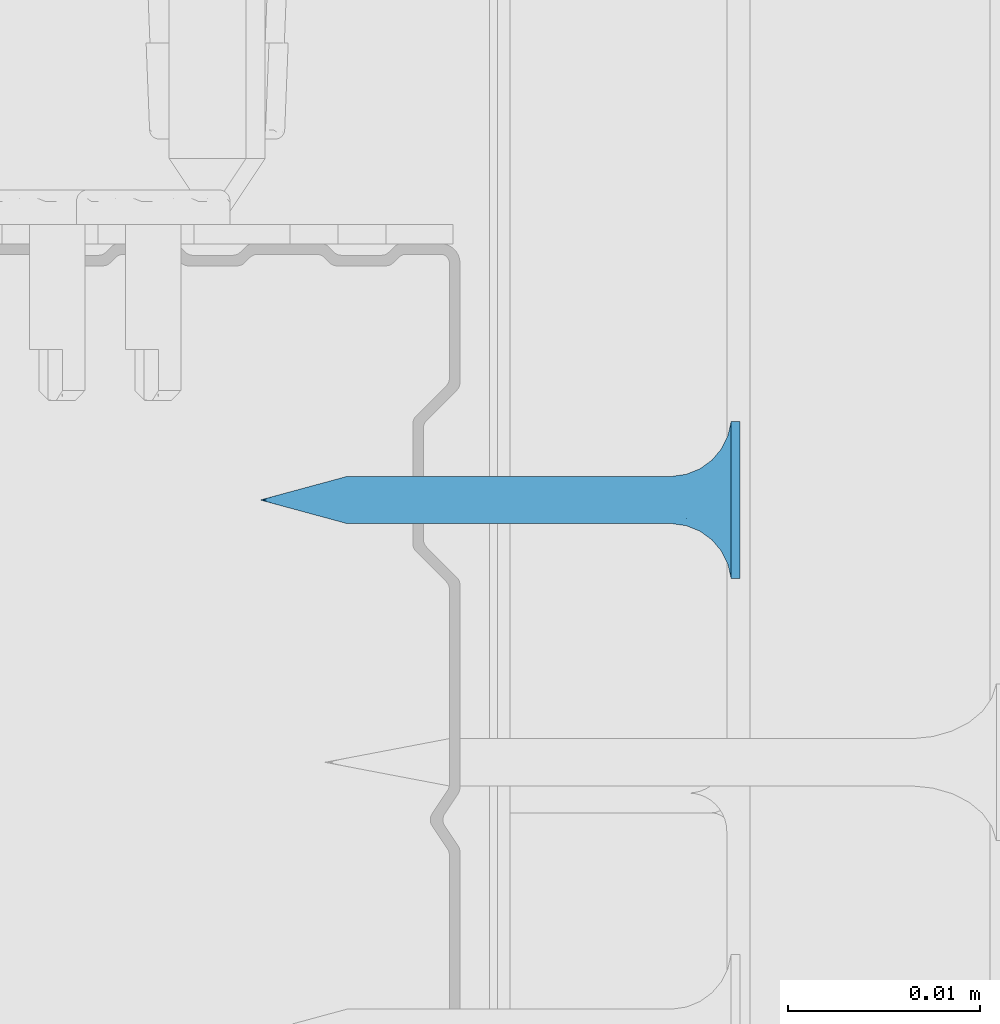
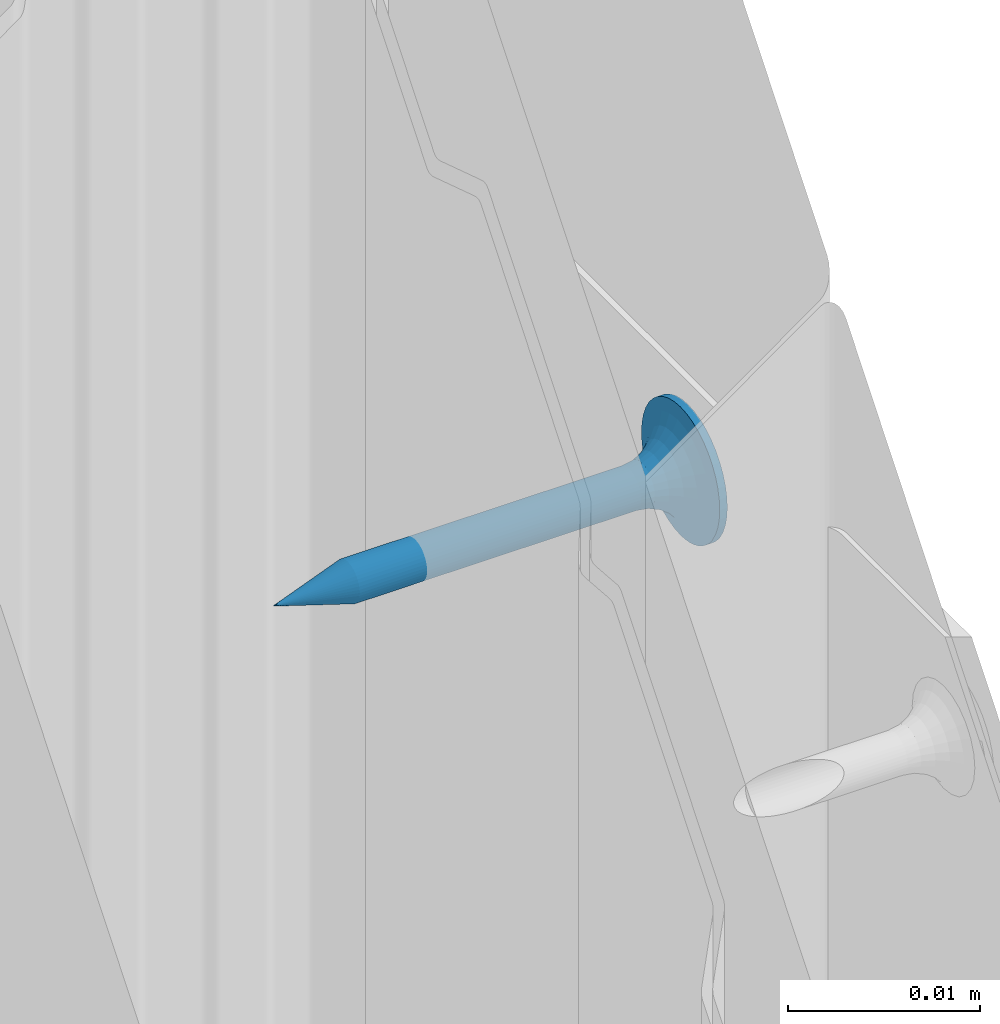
# One storey, part 38 of 62: 1 wall.
"""IFC2X3 building model written with IfcOpenShell, lengths in millimetres."""

from ifc_helpers import new_model, si_unit, frame, origin_with_axes, place, context, subcontext, project, spatial, faceted_brep, material, type_object, element, save


model = new_model("IFC2X3")

# Units and contexts
model_context = context("Model", 3, world=origin_with_axes())
body_context = subcontext(model_context, "Body", "Model", "MODEL_VIEW")
ifc_project = project(units=[si_unit("LENGTHUNIT", "METRE", prefix="MILLI"), si_unit("AREAUNIT", "SQUARE_METRE"), si_unit("VOLUMEUNIT", "CUBIC_METRE")], contexts=[model_context])

# Site, building, storey
site_placement = place(None, frame((2152.14102611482, -2015.0250894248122, 57.61556563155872), z_axis=(0.0, 0.0, 1.0), x_axis=(-1.1102230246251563e-16, 1.0, 0.0)))
site = spatial("IfcSite", under=ifc_project, at=site_placement, Name="Default Site", CompositionType="ELEMENT")
building_placement = place(site_placement, origin_with_axes())
building = spatial("IfcBuilding", under=site, at=building_placement, Name="Default Building", CompositionType="ELEMENT")
storey_placement = place(building_placement, origin_with_axes())
storey = spatial("IfcBuildingStorey", under=building, at=storey_placement, Name="Default Building Storey", CompositionType="ELEMENT", Elevation=57.61556563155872)

# Wall
ifc_material = material(Name="Default")
wall_type = type_object("IfcWallType", Name="Wkręt RIGIPS TN 25#17", PredefinedType="NOTDEFINED")
wall_placement = place(storey_placement, frame((2392.151464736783, 5320.213057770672, 300.1214699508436), z_axis=(0.0, 0.0, 1.0), x_axis=(1.0, 0.0, 0.0)))
element("IfcWall", 1, at=wall_placement, inside=storey, type_object=wall_type, material=ifc_material, Name="Wkręt RIGIPS TN 25", context=body_context, shape_type="Brep", body=[
    faceted_brep([(-141.48753293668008, -3390.5567221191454, 555.1619773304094), (-141.48753293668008, -3391.0209445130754, 555.1619773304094), (-141.53774659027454, -3391.0209445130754, 555.8000000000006), (-141.53774659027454, -3390.5567221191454, 555.8000000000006), (-141.3381290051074, -3390.5567221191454, 554.539664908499), (-141.3381290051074, -3391.0209445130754, 554.539664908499), (-141.09321328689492, -3390.5567221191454, 553.9483861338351), (-141.09321328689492, -3391.0209445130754, 553.9483861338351), (-140.75881656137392, -3390.5567221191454, 553.4027002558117), (-140.75881656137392, -3391.0209445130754, 553.4027002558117), (-140.3431726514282, -3391.0209445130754, 552.9160436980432), (-140.454172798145, -3390.5567221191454, 553.031490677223), (-139.85651609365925, -3391.0209445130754, 552.5003997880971), (-140.10800974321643, -3390.5567221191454, 552.6986613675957), (-139.72512626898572, -3390.5567221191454, 552.408826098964), (-139.31083021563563, -3391.0209445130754, 552.1660030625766), (-139.31083021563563, -3390.5567221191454, 552.1660030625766), (-138.719551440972, -3391.0209445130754, 551.9210873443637), (-138.87086516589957, -3390.5567221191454, 551.973558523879), (-138.4113302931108, -3390.5567221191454, 551.8341602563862), (-138.09723901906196, -3391.0209445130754, 551.7716834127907), (-137.93859616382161, -3390.5567221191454, 551.7497405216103), (-137.4592163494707, -3391.0209445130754, 551.7214697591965), (-137.4592163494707, -3390.5567221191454, 551.7214697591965), (-136.82119367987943, -3390.5567221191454, 551.7716834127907), (-136.82119367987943, -3391.0209445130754, 551.7716834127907), (-136.1988812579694, -3390.5567221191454, 551.9210873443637), (-136.1988812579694, -3391.0209445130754, 551.9210873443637), (-135.60760248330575, -3390.5567221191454, 552.1660030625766), (-135.60760248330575, -3391.0209445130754, 552.1660030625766), (-135.06191660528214, -3390.5567221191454, 552.5003997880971), (-135.06191660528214, -3391.0209445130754, 552.5003997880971), (-134.57526004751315, -3390.5567221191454, 552.9160436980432), (-134.57526004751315, -3391.0209445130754, 552.9160436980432), (-134.15961613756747, -3390.5567221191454, 553.4027002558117), (-134.15961613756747, -3391.0209445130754, 553.4027002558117), (-133.82521941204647, -3390.5567221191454, 553.9483861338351), (-133.82521941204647, -3391.0209445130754, 553.9483861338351), (-133.580303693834, -3390.5567221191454, 554.539664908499), (-133.580303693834, -3391.0209445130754, 554.539664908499), (-133.38068610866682, -3391.0209445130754, 555.8000000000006), (-133.38068610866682, -3390.5567221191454, 555.8000000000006), (-133.4308997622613, -3390.5567221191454, 556.4380226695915), (-133.4308997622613, -3391.0209445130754, 556.4380226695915), (-133.4308997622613, -3391.0209445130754, 555.1619773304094), (-133.4308997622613, -3390.5567221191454, 555.1619773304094), (-133.580303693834, -3390.5567221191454, 557.060335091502), (-133.580303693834, -3391.0209445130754, 557.060335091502), (-133.82521941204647, -3390.5567221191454, 557.6516138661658), (-133.82521941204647, -3391.0209445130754, 557.6516138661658), (-134.15961613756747, -3390.5567221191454, 558.1972997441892), (-134.15961613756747, -3391.0209445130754, 558.1972997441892), (-134.57526004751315, -3390.5567221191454, 558.6839563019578), (-134.57526004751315, -3391.0209445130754, 558.6839563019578), (-135.06191660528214, -3390.5567221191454, 559.0996002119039), (-135.06191660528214, -3391.0209445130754, 559.0996002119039), (-135.60760248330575, -3390.5567221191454, 559.4339969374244), (-135.60760248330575, -3391.0209445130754, 559.4339969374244), (-136.1988812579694, -3390.5567221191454, 559.6789126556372), (-136.1988812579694, -3391.0209445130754, 559.6789126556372), (-136.82119367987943, -3390.5567221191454, 559.8283165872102), (-136.82119367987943, -3391.0209445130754, 559.8283165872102), (-137.4592163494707, -3390.5567221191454, 559.8785302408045), (-137.4592163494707, -3391.0209445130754, 559.8785302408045), (-138.09723901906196, -3390.5567221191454, 559.8283165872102), (-138.09723901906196, -3391.0209445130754, 559.8283165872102), (-138.719551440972, -3390.5567221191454, 559.6789126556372), (-138.719551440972, -3391.0209445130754, 559.6789126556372), (-139.31083021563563, -3390.5567221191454, 559.4339969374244), (-139.31083021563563, -3391.0209445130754, 559.4339969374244), (-139.85651609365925, -3390.5567221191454, 559.0996002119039), (-139.85651609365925, -3391.0209445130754, 559.0996002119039), (-140.3431726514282, -3390.5567221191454, 558.6839563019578), (-140.3431726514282, -3391.0209445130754, 558.6839563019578), (-140.75881656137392, -3390.5567221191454, 558.1972997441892), (-140.75881656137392, -3391.0209445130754, 558.1972997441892), (-141.09321328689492, -3390.5567221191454, 557.6516138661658), (-141.09321328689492, -3391.0209445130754, 557.6516138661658), (-141.3381290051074, -3390.5567221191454, 557.060335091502), (-141.3381290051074, -3391.0209445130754, 557.060335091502), (-141.48753293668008, -3390.5567221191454, 556.4380226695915), (-141.48753293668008, -3391.0209445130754, 556.4380226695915), (-137.6517277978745, -3387.475459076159, 554.5845305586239), (-137.4592163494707, -3387.475459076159, 554.5693795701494), (-137.80606153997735, -3388.2297325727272, 554.5055561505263), (-137.4592163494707, -3388.2297325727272, 554.4598930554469), (-137.83949898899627, -3387.475459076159, 554.6296104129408), (-138.12926982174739, -3388.2297325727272, 554.639433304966), (-138.01790634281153, -3387.475459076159, 554.7035091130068), (-138.18255689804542, -3387.475459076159, 554.8044072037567), (-138.40681506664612, -3388.2297325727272, 554.8524012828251), (-138.32939643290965, -3387.475459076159, 554.9298199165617), (-138.45480914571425, -3387.475459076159, 555.0766594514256), (-138.61978304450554, -3388.2297325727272, 555.1299465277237), (-138.55570723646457, -3387.475459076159, 555.24131000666), (-138.75366019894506, -3388.2297325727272, 555.453154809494), (-138.62960593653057, -3387.475459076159, 555.4197173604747), (-138.67468579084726, -3387.475459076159, 555.6074885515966), (-138.79932329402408, -3388.2297325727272, 555.7999999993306), (-138.68983677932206, -3387.475459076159, 555.8000000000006), (-138.67468579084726, -3387.475459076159, 555.9925114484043), (-138.75366019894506, -3388.2297325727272, 556.146845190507), (-138.62960593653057, -3387.475459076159, 556.1802826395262), (-138.61978304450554, -3388.2297325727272, 556.4700534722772), (-138.55570723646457, -3387.475459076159, 556.3586899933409), (-138.45480914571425, -3387.475459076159, 556.5233405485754), (-138.40681506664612, -3388.2297325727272, 556.747598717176), (-138.32939643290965, -3387.475459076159, 556.6701800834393), (-138.18255689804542, -3387.475459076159, 556.7955927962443), (-138.12926982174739, -3388.2297325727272, 556.960566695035), (-138.01790634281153, -3387.475459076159, 556.8964908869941), (-137.80606153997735, -3388.2297325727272, 557.0944438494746), (-137.83949898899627, -3387.475459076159, 556.9703895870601), (-137.6517277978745, -3387.475459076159, 557.015469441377), (-137.4592163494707, -3388.2297325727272, 557.1401069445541), (-137.4592163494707, -3387.475459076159, 557.0306204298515), (-137.26670490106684, -3387.475459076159, 557.015469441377), (-137.11237115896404, -3388.2297325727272, 557.0944438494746), (-137.0789337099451, -3387.475459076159, 556.9703895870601), (-136.789162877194, -3388.2297325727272, 556.960566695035), (-136.90052635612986, -3387.475459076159, 556.8964908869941), (-136.73587580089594, -3387.475459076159, 556.7955927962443), (-136.51161763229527, -3388.2297325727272, 556.747598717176), (-136.58903626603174, -3387.475459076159, 556.6701800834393), (-136.4636235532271, -3387.475459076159, 556.5233405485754), (-136.29864965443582, -3388.2297325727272, 556.4700534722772), (-136.36272546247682, -3387.475459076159, 556.3586899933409), (-136.16477249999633, -3388.2297325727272, 556.146845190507), (-136.2888267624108, -3387.475459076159, 556.1802826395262), (-136.2437469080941, -3387.475459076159, 555.9925114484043), (-136.11910940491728, -3388.2297325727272, 555.7999999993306), (-136.2285959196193, -3387.475459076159, 555.8000000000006), (-136.2437469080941, -3387.475459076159, 555.6074885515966), (-136.16477249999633, -3388.2297325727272, 555.453154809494), (-136.2888267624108, -3387.475459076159, 555.4197173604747), (-136.29864965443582, -3388.2297325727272, 555.1299465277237), (-136.36272546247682, -3387.475459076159, 555.24131000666), (-136.4636235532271, -3387.475459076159, 555.0766594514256), (-136.51161763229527, -3388.2297325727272, 554.8524012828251), (-136.58903626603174, -3387.475459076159, 554.9298199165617), (-136.73587580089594, -3387.475459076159, 554.8044072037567), (-136.789162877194, -3388.2297325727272, 554.639433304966), (-136.90052635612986, -3387.475459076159, 554.7035091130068), (-137.11237115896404, -3388.2297325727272, 554.5055561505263), (-137.0789337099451, -3387.475459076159, 554.6296104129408), (-137.26670490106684, -3387.475459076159, 554.5845305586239), (-137.4592163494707, -3388.9361426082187, 554.1737111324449), (-137.8801308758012, -3388.9361426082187, 554.2291255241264), (-138.27236078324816, -3388.9361426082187, 554.391592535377), (-138.60917621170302, -3388.9361426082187, 554.6500401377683), (-138.86762381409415, -3388.9361426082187, 554.9868555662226), (-139.03009082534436, -3388.9361426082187, 555.3790854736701), (-139.08550521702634, -3388.9361426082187, 555.7999999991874), (-139.03009082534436, -3388.9361426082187, 556.2209145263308), (-138.86762381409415, -3388.9361426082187, 556.6131444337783), (-138.60917621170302, -3388.9361426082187, 556.9499598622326), (-138.27236078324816, -3388.9361426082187, 557.208407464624), (-137.8801308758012, -3388.9361426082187, 557.3708744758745), (-137.4592163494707, -3388.9361426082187, 557.4262888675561), (-137.0383018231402, -3388.9361426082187, 557.3708744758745), (-136.64607191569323, -3388.9361426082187, 557.208407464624), (-136.30925648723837, -3388.9361426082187, 556.9499598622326), (-136.05080888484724, -3388.9361426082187, 556.6131444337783), (-135.888341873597, -3388.9361426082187, 556.2209145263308), (-135.83292748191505, -3388.9361426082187, 555.7999999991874), (-135.888341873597, -3388.9361426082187, 555.3790854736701), (-136.05080888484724, -3388.9361426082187, 554.9868555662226), (-136.30925648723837, -3388.9361426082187, 554.6500401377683), (-136.64607191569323, -3388.9361426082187, 554.391592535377), (-137.0383018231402, -3388.9361426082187, 554.2291255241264), (-137.4592163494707, -3389.5539382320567, 553.7273430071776), (-137.99565943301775, -3389.5539382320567, 553.7979670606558), (-138.495544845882, -3389.5539382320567, 554.0050264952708), (-138.92480608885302, -3389.5539382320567, 554.3344102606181), (-139.25418985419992, -3389.5539382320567, 554.763671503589), (-139.4612492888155, -3389.5539382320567, 555.2635569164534), (-139.53187334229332, -3389.5539382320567, 555.7999999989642), (-139.4612492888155, -3389.5539382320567, 556.3364430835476), (-139.25418985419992, -3389.5539382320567, 556.836328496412), (-138.92480608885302, -3389.5539382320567, 557.2655897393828), (-138.495544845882, -3389.5539382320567, 557.5949735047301), (-137.99565943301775, -3389.5539382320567, 557.8020329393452), (-137.4592163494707, -3389.5539382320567, 557.8726569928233), (-136.9227732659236, -3389.5539382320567, 557.8020329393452), (-136.42288785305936, -3389.5539382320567, 557.5949735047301), (-135.99362661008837, -3389.5539382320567, 557.2655897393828), (-135.66424284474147, -3389.5539382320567, 556.836328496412), (-135.45718341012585, -3389.5539382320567, 556.3364430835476), (-135.38655935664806, -3389.5539382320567, 555.7999999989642), (-135.45718341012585, -3389.5539382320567, 555.2635569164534), (-135.66424284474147, -3389.5539382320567, 554.763671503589), (-135.99362661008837, -3389.5539382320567, 554.3344102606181), (-136.42288785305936, -3389.5539382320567, 554.0050264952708), (-136.9227732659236, -3389.5539382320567, 553.7979670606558), (-137.4592163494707, -3390.047479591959, 553.1465392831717), (-138.1459825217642, -3390.047479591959, 553.2369539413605), (-138.7859467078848, -3390.047479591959, 553.5020355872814), (-139.3354964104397, -3390.047479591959, 553.9237199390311), (-139.75718076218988, -3390.047479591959, 554.4732696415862), (-140.02226240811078, -3390.047479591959, 555.113233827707), (-140.11267706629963, -3390.047479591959, 555.7999999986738), (-140.02226240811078, -3390.047479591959, 556.486766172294), (-139.75718076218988, -3390.047479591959, 557.1267303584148), (-139.3354964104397, -3390.047479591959, 557.6762800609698), (-138.7859467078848, -3390.047479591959, 558.0979644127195), (-138.1459825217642, -3390.047479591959, 558.3630460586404), (-137.4592163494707, -3390.047479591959, 558.4534607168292), (-136.77245017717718, -3390.047479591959, 558.3630460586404), (-136.13248599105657, -3390.047479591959, 558.0979644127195), (-135.58293628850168, -3390.047479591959, 557.6762800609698), (-135.16125193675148, -3390.047479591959, 557.1267303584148), (-134.89617029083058, -3390.047479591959, 556.486766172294), (-134.80575563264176, -3390.047479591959, 555.7999999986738), (-134.89617029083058, -3390.047479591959, 555.113233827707), (-135.16125193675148, -3390.047479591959, 554.4732696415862), (-135.58293628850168, -3390.047479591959, 553.9237199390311), (-136.13248599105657, -3390.047479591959, 553.5020355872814), (-136.77245017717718, -3390.047479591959, 553.2369539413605), (-137.4592163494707, -3390.3882942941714, 552.4648055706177), (-138.32242816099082, -3390.3882942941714, 552.5784495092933), (-139.1268135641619, -3390.3882942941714, 552.9116369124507), (-139.81755491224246, -3390.3882942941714, 553.4416614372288), (-140.34757943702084, -3390.3882942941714, 554.1324027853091), (-140.68076684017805, -3390.3882942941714, 554.9367881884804), (-140.7944107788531, -3390.3882942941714, 555.7999999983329), (-140.68076684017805, -3390.3882942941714, 556.6632118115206), (-140.34757943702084, -3390.3882942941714, 557.4675972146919), (-139.81755491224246, -3390.3882942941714, 558.1583385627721), (-139.1268135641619, -3390.3882942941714, 558.6883630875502), (-138.32242816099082, -3390.3882942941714, 559.0215504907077), (-137.4592163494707, -3390.3882942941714, 559.1351944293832), (-136.59600453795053, -3390.3882942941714, 559.0215504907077), (-135.7916191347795, -3390.3882942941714, 558.6883630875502), (-135.10087778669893, -3390.3882942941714, 558.1583385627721), (-134.57085326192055, -3390.3882942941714, 557.4675972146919), (-134.23766585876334, -3390.3882942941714, 556.6632118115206), (-134.1240219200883, -3390.3882942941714, 555.7999999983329), (-134.23766585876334, -3390.3882942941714, 554.9367881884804), (-134.57085326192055, -3390.3882942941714, 554.1324027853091), (-135.10087778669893, -3390.3882942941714, 553.4416614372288), (-135.7916191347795, -3390.3882942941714, 552.9116369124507), (-136.59600453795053, -3390.3882942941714, 552.5784495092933), (-138.67468579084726, -3370.558073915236, 555.6074885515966), (-138.68983677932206, -3370.558073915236, 555.8000000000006), (-138.62960593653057, -3370.558073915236, 555.4197173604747), (-138.55570723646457, -3370.558073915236, 555.24131000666), (-138.45480914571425, -3370.558073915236, 555.0766594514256), (-138.32939643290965, -3370.558073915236, 554.9298199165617), (-138.18255689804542, -3370.558073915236, 554.8044072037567), (-138.01790634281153, -3370.558073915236, 554.7035091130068), (-137.83949898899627, -3370.558073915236, 554.6296104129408), (-137.6517277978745, -3370.558073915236, 554.5845305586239), (-137.45921634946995, -3370.558073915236, 554.5693795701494), (-137.26670490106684, -3370.558073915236, 554.5845305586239), (-137.0789337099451, -3370.558073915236, 554.6296104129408), (-136.90052635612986, -3370.558073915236, 554.7035091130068), (-136.73587580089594, -3370.558073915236, 554.8044072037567), (-136.58903626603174, -3370.558073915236, 554.9298199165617), (-136.4636235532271, -3370.558073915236, 555.0766594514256), (-136.36272546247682, -3370.558073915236, 555.24131000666), (-136.2888267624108, -3370.558073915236, 555.4197173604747), (-136.2285959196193, -3370.558073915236, 555.8000000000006), (-136.2437469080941, -3370.558073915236, 555.9925114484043), (-136.2437469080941, -3370.558073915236, 555.6074885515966), (-136.2888267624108, -3370.558073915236, 556.1802826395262), (-136.36272546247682, -3370.558073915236, 556.3586899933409), (-136.4636235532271, -3370.558073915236, 556.5233405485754), (-136.58903626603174, -3370.558073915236, 556.6701800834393), (-136.73587580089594, -3370.558073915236, 556.7955927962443), (-136.90052635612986, -3370.558073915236, 556.8964908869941), (-137.0789337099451, -3370.558073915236, 556.9703895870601), (-137.26670490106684, -3370.558073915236, 557.015469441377), (-137.45921634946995, -3370.558073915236, 557.0306204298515), (-137.6517277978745, -3370.558073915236, 557.015469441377), (-137.83949898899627, -3370.558073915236, 556.9703895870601), (-138.01790634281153, -3370.558073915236, 556.8964908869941), (-138.18255689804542, -3370.558073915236, 556.7955927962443), (-138.32939643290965, -3370.558073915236, 556.6701800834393), (-138.45480914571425, -3370.558073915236, 556.5233405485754), (-138.55570723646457, -3370.558073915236, 556.3586899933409), (-138.62960593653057, -3370.558073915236, 556.1802826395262), (-138.67468579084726, -3370.558073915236, 555.9925114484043), (-137.45921634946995, -3366.0210335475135, 555.8000000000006), (-139.95921629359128, -3391.0209445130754, 555.2999999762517), (-139.95921629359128, -3391.0209445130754, 556.3000000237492), (-137.9592163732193, -3391.0209445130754, 556.3000000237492), (-137.9592163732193, -3391.0209445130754, 558.299999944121), (-136.95921632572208, -3391.0209445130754, 558.299999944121), (-136.95921632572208, -3391.0209445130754, 556.3000000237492), (-134.95921640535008, -3391.0209445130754, 556.3000000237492), (-134.95921640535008, -3391.0209445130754, 555.2999999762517), (-136.95921632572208, -3391.0209445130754, 555.2999999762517), (-136.95921632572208, -3391.0209445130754, 553.3000000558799), (-137.9592163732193, -3391.0209445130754, 553.3000000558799), (-137.9592163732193, -3391.0209445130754, 555.2999999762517), (-136.95921632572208, -3390.72897497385, 558.299999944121), (-137.9592163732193, -3390.72897497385, 558.299999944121), (-137.9592163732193, -3390.72897497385, 556.3000000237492), (-139.95921629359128, -3390.72897497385, 556.3000000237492), (-139.95921629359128, -3390.72897497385, 555.2999999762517), (-137.9592163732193, -3390.72897497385, 555.2999999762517), (-137.9592163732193, -3390.72897497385, 553.3000000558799), (-136.95921632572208, -3390.72897497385, 553.3000000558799), (-136.95921632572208, -3390.72897497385, 555.2999999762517), (-134.95921640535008, -3390.72897497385, 555.2999999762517), (-134.95921640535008, -3390.72897497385, 556.3000000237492), (-136.95921632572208, -3390.72897497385, 556.3000000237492)], [[[0, 1, 2, 3]], [[1, 0, 4, 5]], [[5, 4, 6, 7]], [[8, 9, 7, 6]], [[8, 10, 9]], [[8, 11, 10]], [[12, 11, 13]], [[12, 10, 11]], [[13, 14, 12]], [[14, 15, 12]], [[14, 16, 15]], [[17, 16, 18]], [[17, 15, 16]], [[18, 19, 17]], [[20, 19, 21]], [[20, 17, 19]], [[21, 22, 20]], [[21, 23, 22]], [[24, 25, 22, 23]], [[25, 24, 26, 27]], [[27, 26, 28, 29]], [[30, 31, 29, 28]], [[31, 30, 32, 33]], [[34, 35, 33, 32]], [[35, 34, 36, 37]], [[37, 36, 38, 39]], [[40, 41, 42, 43]], [[44, 45, 41, 40]], [[45, 44, 39, 38]], [[43, 42, 46, 47]], [[47, 46, 48, 49]], [[50, 51, 49, 48]], [[51, 50, 52, 53]], [[54, 55, 53, 52]], [[55, 54, 56, 57]], [[57, 56, 58, 59]], [[60, 61, 59, 58]], [[61, 60, 62, 63]], [[64, 65, 63, 62]], [[65, 64, 66, 67]], [[67, 66, 68, 69]], [[70, 71, 69, 68]], [[71, 70, 72, 73]], [[74, 75, 73, 72]], [[75, 74, 76, 77]], [[77, 76, 78, 79]], [[80, 81, 79, 78]], [[81, 80, 3, 2]], [[82, 83, 84]], [[83, 85, 84]], [[84, 86, 82]], [[84, 87, 88, 86]], [[89, 88, 87]], [[87, 90, 89]], [[90, 91, 89]], [[92, 91, 93]], [[91, 90, 93]], [[93, 94, 92]], [[93, 95, 96, 94]], [[97, 96, 95]], [[95, 98, 97]], [[98, 99, 97]], [[100, 99, 101]], [[99, 98, 101]], [[101, 102, 100]], [[101, 103, 104, 102]], [[105, 104, 103]], [[103, 106, 105]], [[106, 107, 105]], [[108, 107, 109]], [[107, 106, 109]], [[109, 110, 108]], [[109, 111, 112, 110]], [[113, 112, 111]], [[111, 114, 113]], [[114, 115, 113]], [[116, 115, 117]], [[115, 114, 117]], [[117, 118, 116]], [[117, 119, 120, 118]], [[121, 120, 119]], [[119, 122, 121]], [[122, 123, 121]], [[124, 123, 125]], [[123, 122, 125]], [[125, 126, 124]], [[125, 127, 128, 126]], [[129, 128, 127]], [[127, 130, 129]], [[130, 131, 129]], [[132, 131, 133]], [[131, 130, 133]], [[133, 134, 132]], [[133, 135, 136, 134]], [[137, 136, 135]], [[135, 138, 137]], [[138, 139, 137]], [[140, 139, 141]], [[139, 138, 141]], [[141, 142, 140]], [[141, 143, 144, 142]], [[145, 144, 143]], [[143, 85, 145]], [[85, 83, 145]], [[146, 147, 84, 85]], [[84, 147, 148, 87]], [[87, 148, 149, 90]], [[90, 149, 150, 93]], [[93, 150, 151, 95]], [[95, 151, 152, 98]], [[98, 152, 153, 101]], [[101, 153, 154, 103]], [[103, 154, 155, 106]], [[106, 155, 156, 109]], [[109, 156, 157, 111]], [[111, 157, 158, 114]], [[114, 158, 159, 117]], [[117, 159, 160, 119]], [[119, 160, 161, 122]], [[122, 161, 162, 125]], [[125, 162, 163, 127]], [[127, 163, 164, 130]], [[130, 164, 165, 133]], [[133, 165, 166, 135]], [[135, 166, 167, 138]], [[138, 167, 168, 141]], [[141, 168, 169, 143]], [[143, 169, 146, 85]], [[170, 171, 147, 146]], [[147, 171, 172, 148]], [[148, 172, 173, 149]], [[149, 173, 174, 150]], [[150, 174, 175, 151]], [[151, 175, 176, 152]], [[152, 176, 177, 153]], [[153, 177, 178, 154]], [[154, 178, 179, 155]], [[155, 179, 180, 156]], [[156, 180, 181, 157]], [[157, 181, 182, 158]], [[158, 182, 183, 159]], [[159, 183, 184, 160]], [[160, 184, 185, 161]], [[161, 185, 186, 162]], [[162, 186, 187, 163]], [[163, 187, 188, 164]], [[164, 188, 189, 165]], [[165, 189, 190, 166]], [[166, 190, 191, 167]], [[167, 191, 192, 168]], [[168, 192, 193, 169]], [[169, 193, 170, 146]], [[194, 195, 171, 170]], [[171, 195, 196, 172]], [[172, 196, 197, 173]], [[173, 197, 198, 174]], [[174, 198, 199, 175]], [[175, 199, 200, 176]], [[176, 200, 201, 177]], [[177, 201, 202, 178]], [[178, 202, 203, 179]], [[179, 203, 204, 180]], [[180, 204, 205, 181]], [[181, 205, 206, 182]], [[182, 206, 207, 183]], [[183, 207, 208, 184]], [[184, 208, 209, 185]], [[185, 209, 210, 186]], [[186, 210, 211, 187]], [[187, 211, 212, 188]], [[188, 212, 213, 189]], [[189, 213, 214, 190]], [[190, 214, 215, 191]], [[191, 215, 216, 192]], [[192, 216, 217, 193]], [[193, 217, 194, 170]], [[21, 19, 218]], [[19, 219, 218]], [[218, 23, 21]], [[218, 219, 195, 194]], [[18, 16, 219]], [[16, 220, 219]], [[219, 19, 18]], [[195, 219, 220, 196]], [[13, 11, 221]], [[14, 13, 220]], [[13, 221, 220]], [[220, 16, 14]], [[196, 220, 221, 197]], [[8, 6, 222]], [[222, 221, 8]], [[221, 11, 8]], [[197, 221, 222, 198]], [[4, 223, 222, 6]], [[198, 222, 223, 199]], [[0, 3, 223]], [[3, 224, 223]], [[223, 4, 0]], [[199, 223, 224, 200]], [[80, 78, 225]], [[225, 224, 80]], [[224, 3, 80]], [[200, 224, 225, 201]], [[78, 76, 226, 225]], [[201, 225, 226, 202]], [[74, 72, 226]], [[72, 227, 226]], [[226, 76, 74]], [[202, 226, 227, 203]], [[70, 68, 228]], [[228, 227, 70]], [[227, 72, 70]], [[203, 227, 228, 204]], [[68, 66, 229, 228]], [[204, 228, 229, 205]], [[64, 62, 229]], [[62, 230, 229]], [[229, 66, 64]], [[205, 229, 230, 206]], [[60, 58, 231]], [[231, 230, 60]], [[230, 62, 60]], [[206, 230, 231, 207]], [[58, 56, 232, 231]], [[207, 231, 232, 208]], [[54, 52, 232]], [[52, 233, 232]], [[232, 56, 54]], [[208, 232, 233, 209]], [[50, 48, 234]], [[234, 233, 50]], [[233, 52, 50]], [[209, 233, 234, 210]], [[48, 46, 235, 234]], [[210, 234, 235, 211]], [[42, 41, 235]], [[41, 236, 235]], [[235, 46, 42]], [[211, 235, 236, 212]], [[45, 38, 237]], [[237, 236, 45]], [[236, 41, 45]], [[212, 236, 237, 213]], [[36, 238, 237, 38]], [[213, 237, 238, 214]], [[34, 32, 238]], [[32, 239, 238]], [[238, 36, 34]], [[214, 238, 239, 215]], [[30, 28, 240]], [[240, 239, 30]], [[239, 32, 30]], [[215, 239, 240, 216]], [[26, 241, 240, 28]], [[216, 240, 241, 217]], [[217, 241, 218, 194]], [[24, 23, 241]], [[23, 218, 241]], [[241, 26, 24]], [[242, 97, 99, 243]], [[97, 242, 244, 96]], [[96, 244, 245, 94]], [[246, 92, 94, 245]], [[92, 246, 247, 91]], [[248, 89, 91, 247]], [[89, 248, 249, 88]], [[88, 249, 250, 86]], [[251, 82, 86, 250]], [[82, 251, 252, 83]], [[253, 145, 83, 252]], [[145, 253, 254, 144]], [[144, 254, 255, 142]], [[256, 140, 142, 255]], [[140, 256, 257, 139]], [[258, 137, 139, 257]], [[137, 258, 259, 136]], [[136, 259, 260, 134]], [[131, 261, 262, 129]], [[132, 263, 261, 131]], [[263, 132, 134, 260]], [[129, 262, 264, 128]], [[128, 264, 265, 126]], [[266, 124, 126, 265]], [[124, 266, 267, 123]], [[268, 121, 123, 267]], [[121, 268, 269, 120]], [[120, 269, 270, 118]], [[271, 116, 118, 270]], [[116, 271, 272, 115]], [[273, 113, 115, 272]], [[113, 273, 274, 112]], [[112, 274, 275, 110]], [[276, 108, 110, 275]], [[108, 276, 277, 107]], [[278, 105, 107, 277]], [[105, 278, 279, 104]], [[104, 279, 280, 102]], [[281, 100, 102, 280]], [[100, 281, 243, 99]], [[282, 244, 242]], [[242, 243, 282]], [[282, 245, 244]], [[282, 247, 246]], [[246, 245, 282]], [[282, 249, 248]], [[248, 247, 282]], [[282, 250, 249]], [[282, 252, 251]], [[251, 250, 282]], [[282, 254, 253]], [[253, 252, 282]], [[282, 255, 254]], [[282, 257, 256]], [[256, 255, 282]], [[282, 259, 258]], [[258, 257, 282]], [[282, 260, 259]], [[282, 261, 263]], [[263, 260, 282]], [[282, 264, 262]], [[262, 261, 282]], [[282, 265, 264]], [[282, 267, 266]], [[266, 265, 282]], [[282, 269, 268]], [[268, 267, 282]], [[282, 270, 269]], [[282, 272, 271]], [[271, 270, 282]], [[282, 274, 273]], [[273, 272, 282]], [[282, 275, 274]], [[282, 277, 276]], [[276, 275, 282]], [[282, 279, 278]], [[278, 277, 282]], [[282, 280, 279]], [[282, 243, 281]], [[281, 280, 282]], [[75, 77, 79, 81, 2, 1, 5, 7, 9, 10, 12, 15, 17, 20, 22, 25, 27, 29, 31, 33, 35, 37, 39, 44, 40, 43, 47, 49, 51, 53, 55, 57, 59, 61, 63, 65, 67, 69, 71, 73], [283, 284, 285, 286, 287, 288, 289, 290, 291, 292, 293, 294]], [[295, 296, 297, 298, 299, 300, 301, 302, 303, 304, 305, 306]], [[303, 291, 290, 304]], [[304, 290, 289, 305]], [[305, 289, 288, 306]], [[306, 288, 287, 295]], [[295, 287, 286, 296]], [[296, 286, 285, 297]], [[297, 285, 284, 298]], [[298, 284, 283, 299]], [[299, 283, 294, 300]], [[300, 294, 293, 301]], [[301, 293, 292, 302]], [[302, 292, 291, 303]]]),
])

save(model, "model.ifc")
